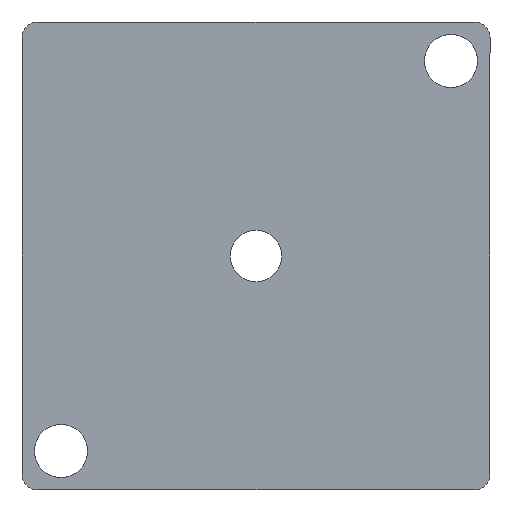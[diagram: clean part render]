
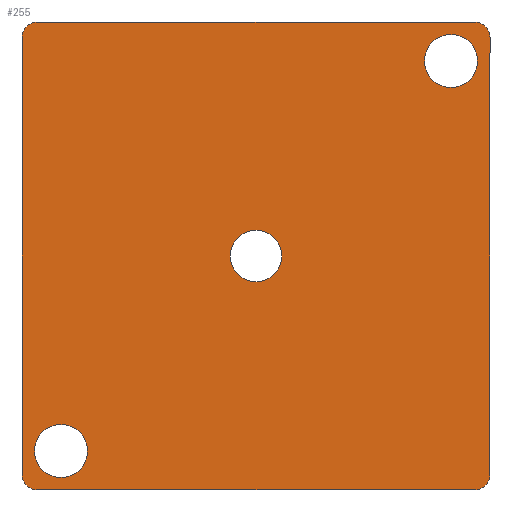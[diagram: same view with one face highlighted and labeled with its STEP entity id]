
A CAD part, left-side view. The second image highlights one B-rep face of the part: STEP entity #255.
In plain terms, the highlighted planar face has unit normal (-1, 0, 0).
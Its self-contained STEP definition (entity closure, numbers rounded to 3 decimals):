
#15=FACE_BOUND('',#42,.T.);
#16=FACE_BOUND('',#43,.T.);
#17=FACE_BOUND('',#44,.T.);
#21=PLANE('',#290);
#28=FACE_OUTER_BOUND('',#41,.T.);
#41=EDGE_LOOP('',(#179,#180,#181,#182,#183,#184,#185,#186));
#42=EDGE_LOOP('',(#187));
#43=EDGE_LOOP('',(#188));
#44=EDGE_LOOP('',(#189));
#61=LINE('',#410,#80);
#62=LINE('',#414,#81);
#63=LINE('',#418,#82);
#64=LINE('',#421,#83);
#80=VECTOR('',#329,10.);
#81=VECTOR('',#332,10.);
#82=VECTOR('',#335,10.);
#83=VECTOR('',#338,10.);
#98=CIRCLE('',#289,2.);
#99=CIRCLE('',#291,2.);
#100=CIRCLE('',#292,2.);
#101=CIRCLE('',#293,2.);
#102=CIRCLE('',#294,3.4);
#103=CIRCLE('',#295,3.4);
#104=CIRCLE('',#296,3.324);
#116=VERTEX_POINT('',#403);
#117=VERTEX_POINT('',#405);
#118=VERTEX_POINT('',#409);
#119=VERTEX_POINT('',#411);
#120=VERTEX_POINT('',#413);
#121=VERTEX_POINT('',#415);
#122=VERTEX_POINT('',#417);
#123=VERTEX_POINT('',#419);
#124=VERTEX_POINT('',#422);
#125=VERTEX_POINT('',#424);
#126=VERTEX_POINT('',#426);
#141=EDGE_CURVE('',#116,#117,#98,.T.);
#143=EDGE_CURVE('',#118,#116,#61,.T.);
#144=EDGE_CURVE('',#119,#118,#99,.T.);
#145=EDGE_CURVE('',#120,#119,#62,.T.);
#146=EDGE_CURVE('',#121,#120,#100,.T.);
#147=EDGE_CURVE('',#122,#121,#63,.T.);
#148=EDGE_CURVE('',#123,#122,#101,.T.);
#149=EDGE_CURVE('',#117,#123,#64,.T.);
#150=EDGE_CURVE('',#124,#124,#102,.T.);
#151=EDGE_CURVE('',#125,#125,#103,.T.);
#152=EDGE_CURVE('',#126,#126,#104,.T.);
#179=ORIENTED_EDGE('',*,*,#141,.F.);
#180=ORIENTED_EDGE('',*,*,#143,.F.);
#181=ORIENTED_EDGE('',*,*,#144,.F.);
#182=ORIENTED_EDGE('',*,*,#145,.F.);
#183=ORIENTED_EDGE('',*,*,#146,.F.);
#184=ORIENTED_EDGE('',*,*,#147,.F.);
#185=ORIENTED_EDGE('',*,*,#148,.F.);
#186=ORIENTED_EDGE('',*,*,#149,.F.);
#187=ORIENTED_EDGE('',*,*,#150,.T.);
#188=ORIENTED_EDGE('',*,*,#151,.T.);
#189=ORIENTED_EDGE('',*,*,#152,.T.);
#255=ADVANCED_FACE('',(#28,#15,#16,#17),#21,.F.);
#289=AXIS2_PLACEMENT_3D('',#406,#324,#325);
#290=AXIS2_PLACEMENT_3D('',#408,#327,#328);
#291=AXIS2_PLACEMENT_3D('',#412,#330,#331);
#292=AXIS2_PLACEMENT_3D('',#416,#333,#334);
#293=AXIS2_PLACEMENT_3D('',#420,#336,#337);
#294=AXIS2_PLACEMENT_3D('',#423,#339,#340);
#295=AXIS2_PLACEMENT_3D('',#425,#341,#342);
#296=AXIS2_PLACEMENT_3D('',#427,#343,#344);
#324=DIRECTION('center_axis',(1.,0.,0.));
#325=DIRECTION('ref_axis',(0.,0.707,-0.707));
#327=DIRECTION('center_axis',(1.,0.,0.));
#328=DIRECTION('ref_axis',(0.,0.,-1.));
#329=DIRECTION('',(0.,1.,0.));
#330=DIRECTION('center_axis',(1.,0.,0.));
#331=DIRECTION('ref_axis',(0.,-0.707,-0.707));
#332=DIRECTION('',(0.,0.,-1.));
#333=DIRECTION('center_axis',(1.,0.,0.));
#334=DIRECTION('ref_axis',(0.,-0.707,0.707));
#335=DIRECTION('',(0.,-1.,0.));
#336=DIRECTION('center_axis',(1.,0.,0.));
#337=DIRECTION('ref_axis',(0.,0.707,0.707));
#338=DIRECTION('',(0.,0.,1.));
#339=DIRECTION('center_axis',(1.,0.,0.));
#340=DIRECTION('ref_axis',(0.,1.,0.));
#341=DIRECTION('center_axis',(1.,0.,0.));
#342=DIRECTION('ref_axis',(0.,1.,0.));
#343=DIRECTION('center_axis',(1.,0.,0.));
#344=DIRECTION('ref_axis',(0.,1.,0.));
#403=CARTESIAN_POINT('',(0.,22.616,-35.902));
#405=CARTESIAN_POINT('',(0.,24.616,-33.902));
#406=CARTESIAN_POINT('Origin',(0.,22.616,-33.902));
#408=CARTESIAN_POINT('Origin',(0.,-5.384,-5.902));
#409=CARTESIAN_POINT('',(0.,-33.384,-35.902));
#410=CARTESIAN_POINT('',(0.,-35.384,-35.902));
#411=CARTESIAN_POINT('',(0.,-35.384,-33.902));
#412=CARTESIAN_POINT('Origin',(0.,-33.384,-33.902));
#413=CARTESIAN_POINT('',(0.,-35.384,22.098));
#414=CARTESIAN_POINT('',(0.,-35.384,24.098));
#415=CARTESIAN_POINT('',(0.,-33.384,24.098));
#416=CARTESIAN_POINT('Origin',(0.,-33.384,22.098));
#417=CARTESIAN_POINT('',(0.,22.616,24.098));
#418=CARTESIAN_POINT('',(0.,24.616,24.098));
#419=CARTESIAN_POINT('',(0.,24.616,22.098));
#420=CARTESIAN_POINT('Origin',(0.,22.616,22.098));
#421=CARTESIAN_POINT('',(0.,24.616,-35.902));
#422=CARTESIAN_POINT('',(0.,16.216,-30.902));
#423=CARTESIAN_POINT('Origin',(0.,19.616,-30.902));
#424=CARTESIAN_POINT('',(0.,-33.784,19.098));
#425=CARTESIAN_POINT('Origin',(0.,-30.384,19.098));
#426=CARTESIAN_POINT('',(0.,-8.707,-5.902));
#427=CARTESIAN_POINT('Origin',(0.,-5.384,-5.902));
